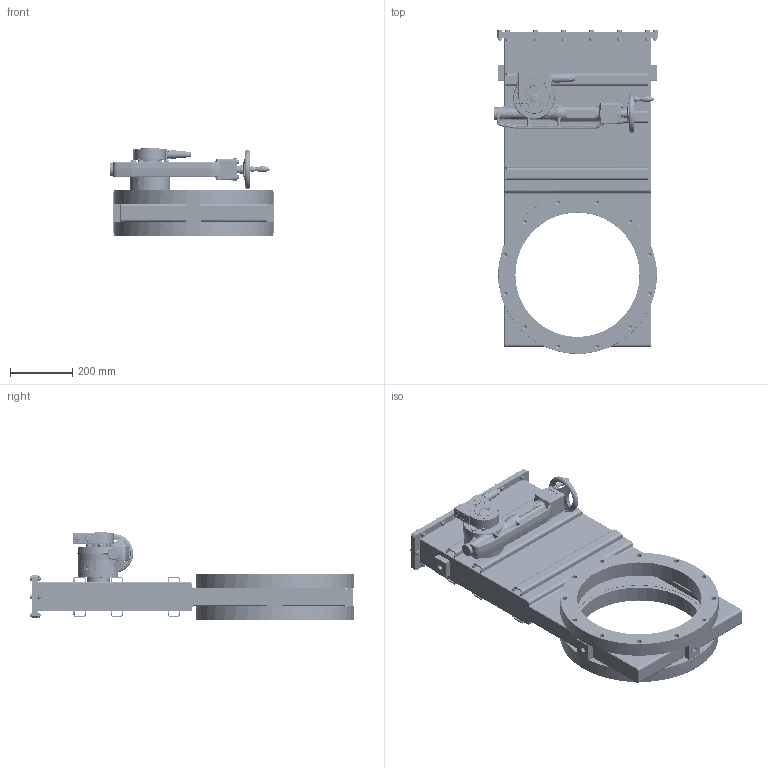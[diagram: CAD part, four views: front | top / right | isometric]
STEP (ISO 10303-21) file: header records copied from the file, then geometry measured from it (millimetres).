
FILE_DESCRIPTION((''),'2;1');
FILE_NAME('O:\MT\MT\Systeme\Cad\Datenexporte\www_vat_ch\236410.stp','2005-08-02T13:44:44',('User'),('SDRC'),'I-DEAS Master Series 9','UNIX','Yes');
FILE_SCHEMA(('CONFIG_CONTROL_DESIGN'));
Length unit declared in the file: millimetre
Assembly tree (131 placements, depth 0):
Bounding box: 529.75 x 1041.39 x 283.88 mm (x, y, z)
Volume: 15170276.3 mm3; surface area: 3637652.6 mm2
Topology: 176 solids, 176 shells, 4070 faces, 9467 edges, 6040 vertices
Faces by surface type: bspline 4070
Entity records: 93497 total; most frequent: CARTESIAN_POINT 49259, ORIENTED_EDGE 12078, EDGE_CURVE 6039, VERTEX_POINT 3857, EDGE_LOOP 2880, FACE_OUTER_BOUND 2488, ADVANCED_FACE 2488, QUASI_UNIFORM_CURVE 2196
